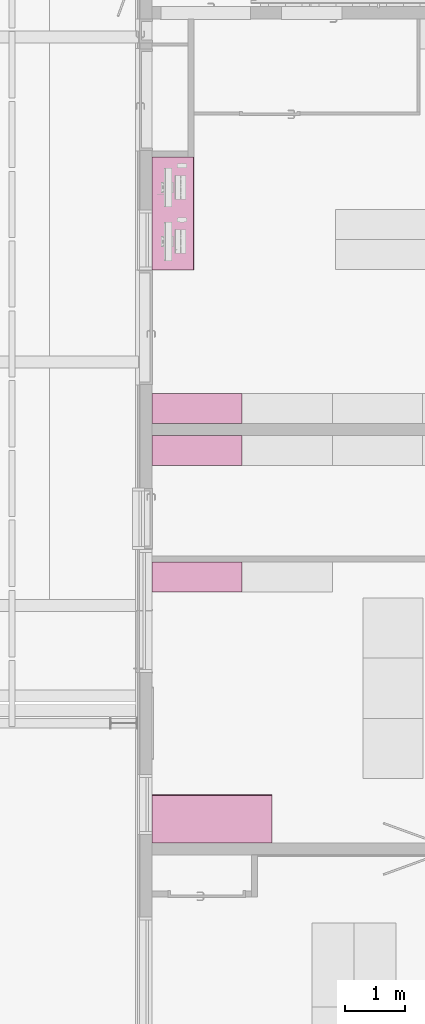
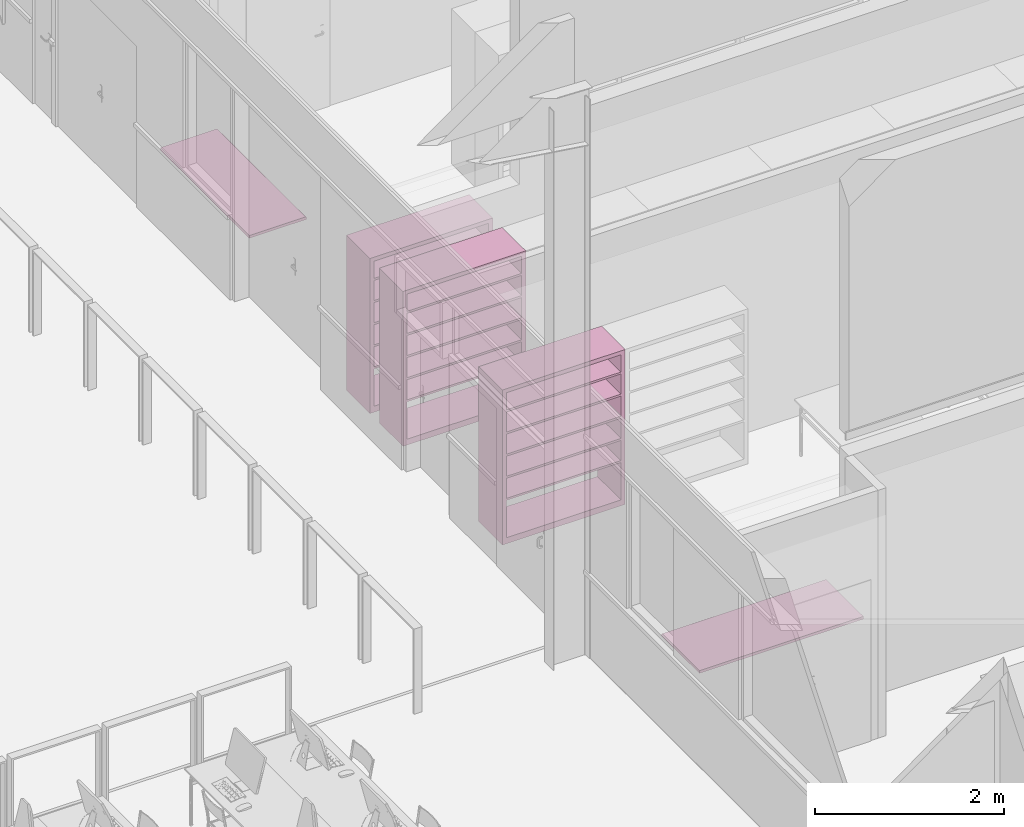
# One storey, part 124 of 137: 5 furnishings.
"""IFC2X3 building model written with IfcOpenShell, lengths in centimetres."""

from ifc_helpers import new_model, entity, si_unit, converted_unit, derived_unit, direction, frame, frame_2d, origin, place, context, subcontext, project, spatial, polyline, circle_curve, parameter, trimmed, segment, composite_curve, outline, extrude, source, transform, mapped, material, type_object, type_shapes, element, save


model = new_model("IFC2X3")

# Units and contexts
model_context = context("Model", 3, precision=0.001, world=origin(), true_north=direction((6.12303176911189e-17, 1.0)))
body_context = subcontext(model_context, "Body", "Model", "MODEL_VIEW")
ifc_project = project(units=[si_unit("LENGTHUNIT", "METRE", prefix="CENTI"), si_unit("AREAUNIT", "SQUARE_METRE"), si_unit("VOLUMEUNIT", "CUBIC_METRE"), converted_unit("PLANEANGLEUNIT", "DEGREE", entity("IfcRatioMeasure", 0.0174532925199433), si_unit("PLANEANGLEUNIT", "RADIAN"), dimensions=[0, 0, 0, 0, 0, 0, 0]), si_unit("MASSUNIT", "GRAM", prefix="KILO"), si_unit("TIMEUNIT", "SECOND"), si_unit("FREQUENCYUNIT", "HERTZ"), si_unit("THERMODYNAMICTEMPERATUREUNIT", "DEGREE_CELSIUS"), derived_unit("THERMALTRANSMITTANCEUNIT", [(si_unit("MASSUNIT", "GRAM", prefix="KILO"), 1), (si_unit("THERMODYNAMICTEMPERATUREUNIT", "KELVIN"), -1), (si_unit("TIMEUNIT", "SECOND"), -3)]), derived_unit("VOLUMETRICFLOWRATEUNIT", [(si_unit("LENGTHUNIT", "METRE"), 3), (si_unit("TIMEUNIT", "SECOND"), -1)]), si_unit("ELECTRICCURRENTUNIT", "AMPERE"), si_unit("ELECTRICVOLTAGEUNIT", "VOLT"), si_unit("POWERUNIT", "WATT"), si_unit("FORCEUNIT", "NEWTON", prefix="KILO"), si_unit("ILLUMINANCEUNIT", "LUX"), si_unit("LUMINOUSFLUXUNIT", "LUMEN"), si_unit("LUMINOUSINTENSITYUNIT", "CANDELA"), derived_unit("USERDEFINED", [(si_unit("MASSUNIT", "GRAM", prefix="KILO"), -1), (si_unit("LENGTHUNIT", "METRE"), -2), (si_unit("TIMEUNIT", "SECOND"), 3), (si_unit("LUMINOUSFLUXUNIT", "LUMEN"), 1)]), derived_unit("LINEARVELOCITYUNIT", [(si_unit("LENGTHUNIT", "METRE"), 1), (si_unit("TIMEUNIT", "SECOND"), -1)]), si_unit("PRESSUREUNIT", "PASCAL"), derived_unit("USERDEFINED", [(si_unit("LENGTHUNIT", "METRE"), -2), (si_unit("MASSUNIT", "GRAM", prefix="KILO"), 1), (si_unit("TIMEUNIT", "SECOND"), -2)])], contexts=[model_context])

# Site, building, storey, space
site_placement = place(None, frame((8.62739174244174, -249.285249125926, 0.0)))
site = spatial("IfcSite", under=ifc_project, at=site_placement, Name="Default", CompositionType="ELEMENT")
building_placement = place(site_placement, origin())
building = spatial("IfcBuilding", under=site, at=building_placement, CompositionType="ELEMENT")
storey_placement = place(building_placement, origin())
storey = spatial("IfcBuildingStorey", under=building, at=storey_placement, Name="RDC", CompositionType="ELEMENT", Elevation=-8.82465566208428e-11)
space_1_placement = place(storey_placement, origin())
space_1 = spatial("IfcSpace", under=storey, at=space_1_placement, Name="049", CompositionType="ELEMENT", InteriorOrExteriorSpace="INTERNAL")

# Furnishing
ifc_material_1 = material(Name="Bois - Mélaminé jaune pastel")
furniture_type_1 = type_object("IfcFurnitureType", Name="Sans réservation pour évier", AssemblyPlace="NOTDEFINED", material=ifc_material_1)
shared_shape_1 = source(origin(), body_context, "Body", "SweptSolid", [
    extrude(outline(composite_curve([segment(polyline([(-1.91284418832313, -23.4125426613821), (-0.772934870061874, -23.4125426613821)]), True, "CONTINUOUS"), segment(polyline([(-0.772934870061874, -23.4125426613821), (-0.16284418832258, -23.4125426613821)]), True, "CONTINUOUS"), segment(trimmed(circle_curve(frame_2d((-0.16284418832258, -21.6625426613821), x_axis=(0.0, -1.0)), 1.75), [parameter(4.57999874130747e-13)], [parameter(90.0000000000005)], True, "PARAMETER"), True, "CONTINUOUS"), segment(polyline([(1.58715581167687, -21.6625426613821), (1.58715581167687, -21.274744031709)]), True, "CONTINUOUS"), segment(polyline([(1.58715581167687, -21.274744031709), (1.58715581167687, 56.5874573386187)]), True, "CONTINUOUS"), segment(polyline([(1.58715581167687, 56.5874573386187), (-1.91284418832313, 56.5874573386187)]), True, "CONTINUOUS"), segment(polyline([(-1.91284418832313, 56.5874573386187), (-1.91284418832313, -23.4125426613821)]), True, "CONTINUOUS")], self_intersect=False)), frame((-87.6006308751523, 66.5874573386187, 89.1128441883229), z_axis=(1.0, 0.0, 0.0), x_axis=(0.0, 0.0, 1.0)), (0.0, 0.0, 1.0), 200.201261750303),
])
type_shapes(furniture_type_1, [shared_shape_1])
furnishing_1_placement = place(space_1_placement, frame((3141.50545866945, 3303.18519336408, 0.0)))
element("IfcFurnishingElement", 1, at=furnishing_1_placement, inside=space_1, type_object=furniture_type_1, material=ifc_material_1, Name="PTD:Sans réservation pour évier", ObjectType="Sans réservation pour évier", context=body_context, shape_type="MappedRepresentation", body=[
    mapped(shared_shape_1, transform((0.0, 0.0, 0.0), scale=1.0)),
])

# Space
space_2_placement = place(storey_placement, origin())
space_2 = spatial("IfcSpace", under=storey, at=space_2_placement, Name="050", CompositionType="ELEMENT", InteriorOrExteriorSpace="INTERNAL")

# Furnishing
ifc_material_2 = material(Name="Alu")
furniture_type_2 = type_object("IfcFurnitureType", Name="150 x 50 x 200", AssemblyPlace="NOTDEFINED", material=ifc_material_2)
shared_shape_2 = source(origin(), body_context, "Body", "SweptSolid", [
    extrude(outline(polyline([(-75.0, -100.0), (75.0, -100.0), (75.0, 100.0), (-75.0, 100.0), (-75.0, -100.0)]), holes=[polyline([(-69.9200000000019, 94.9199999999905), (69.9200000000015, 94.9199999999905), (69.9200000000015, 72.698571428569), (-69.9200000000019, 72.698571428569), (-69.9200000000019, 94.9199999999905)]), polyline([(-69.9200000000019, -92.3800000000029), (-69.9200000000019, -44.1271428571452), (69.9200000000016, -44.1271428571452), (69.9200000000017, -92.3800000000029), (-69.9200000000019, -92.3800000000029)]), polyline([(69.9200000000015, 15.5557142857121), (-69.9200000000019, 15.5557142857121), (-69.9200000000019, 41.5871428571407), (69.9200000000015, 41.5871428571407), (69.9200000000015, 15.5557142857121)]), polyline([(-69.9200000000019, 70.1585714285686), (69.9200000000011, 70.1585714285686), (69.9200000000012, 44.1271428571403), (-69.9200000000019, 44.1271428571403), (-69.9200000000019, 70.1585714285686)]), polyline([(-69.9200000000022, 13.0157142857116), (69.9200000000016, 13.0157142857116), (69.9200000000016, -13.0157142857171), (-69.9200000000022, -13.0157142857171), (-69.9200000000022, 13.0157142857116)]), polyline([(-69.9200000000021, -15.5557142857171), (69.9200000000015, -15.5557142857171), (69.9200000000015, -41.5871428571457), (-69.9200000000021, -41.5871428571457), (-69.9200000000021, -15.5557142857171)])]), frame((0.0, -55.48, 100.0), z_axis=(0.0, 1.0, 0.0), x_axis=(-1.0, 0.0, 0.0)), (0.0, 0.0, 1.0), 50.0),
])
type_shapes(furniture_type_2, [shared_shape_2])
furnishing_2_placement = place(space_2_placement, frame((3128.9048277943, 4065.66519336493, 0.0)))
element("IfcFurnishingElement", 2, at=furnishing_2_placement, inside=space_2, type_object=furniture_type_2, material=ifc_material_2, Name="Etagère:150 x 50 x 200", ObjectType="150 x 50 x 200", context=body_context, shape_type="MappedRepresentation", body=[
    mapped(shared_shape_2, transform((0.0, 0.0, 0.0), scale=1.0)),
])

# Space
space_3_placement = place(storey_placement, origin())
space_3 = spatial("IfcSpace", under=storey, at=space_3_placement, Name="051", CompositionType="ELEMENT", InteriorOrExteriorSpace="INTERNAL")

# Furnishings
furniture_type_3 = type_object("IfcFurnitureType", Name="150 x 50 x 200", AssemblyPlace="NOTDEFINED", material=ifc_material_2)
shared_shape_3 = source(origin(), body_context, "Body", "SweptSolid", [
    extrude(outline(polyline([(-75.0, -100.0), (75.0, -100.0), (75.0, 100.0), (-75.0, 100.0), (-75.0, -100.0)]), holes=[polyline([(-69.9200000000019, 94.9199999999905), (69.9200000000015, 94.9199999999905), (69.9200000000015, 72.698571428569), (-69.9200000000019, 72.698571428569), (-69.9200000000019, 94.9199999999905)]), polyline([(-69.9200000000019, -92.3800000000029), (-69.9200000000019, -44.1271428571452), (69.9200000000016, -44.1271428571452), (69.9200000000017, -92.3800000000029), (-69.9200000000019, -92.3800000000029)]), polyline([(69.9200000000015, 15.5557142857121), (-69.9200000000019, 15.5557142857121), (-69.9200000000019, 41.5871428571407), (69.9200000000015, 41.5871428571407), (69.9200000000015, 15.5557142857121)]), polyline([(-69.9200000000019, 70.1585714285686), (69.9200000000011, 70.1585714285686), (69.9200000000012, 44.1271428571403), (-69.9200000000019, 44.1271428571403), (-69.9200000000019, 70.1585714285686)]), polyline([(-69.9200000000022, 13.0157142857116), (69.9200000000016, 13.0157142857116), (69.9200000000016, -13.0157142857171), (-69.9200000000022, -13.0157142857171), (-69.9200000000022, 13.0157142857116)]), polyline([(-69.9200000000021, -15.5557142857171), (69.9200000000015, -15.5557142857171), (69.9200000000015, -41.5871428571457), (-69.9200000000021, -41.5871428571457), (-69.9200000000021, -15.5557142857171)])]), frame((0.0, 5.48000000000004, 100.0), z_axis=(0.0, 1.0, 0.0), x_axis=(-1.0, 0.0, 0.0)), (0.0, 0.0, 1.0), 50.0),
])
type_shapes(furniture_type_3, [shared_shape_3])
furnishing_3_placement = place(space_3_placement, frame((3128.9048277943, 3934.70519336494, 0.0)))
element("IfcFurnishingElement", 3, at=furnishing_3_placement, inside=space_3, type_object=furniture_type_3, material=ifc_material_2, Name="Etagère:150 x 50 x 200", ObjectType="150 x 50 x 200", context=body_context, shape_type="MappedRepresentation", body=[
    mapped(shared_shape_3, transform((0.0, 0.0, 0.0), scale=1.0)),
])
furnishing_4_placement = place(space_1_placement, frame((3128.9048277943, 3724.7051933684, 0.0)))
element("IfcFurnishingElement", 4, at=furnishing_4_placement, inside=space_1, type_object=furniture_type_3, material=ifc_material_2, Name="Etagère:150 x 50 x 200", ObjectType="150 x 50 x 200", context=body_context, shape_type="MappedRepresentation", body=[
    mapped(shared_shape_3, transform((0.0, 0.0, 0.0), scale=1.0)),
])
furniture_type_4 = type_object("IfcFurnitureType", Name="Sans réservation pour évier", AssemblyPlace="NOTDEFINED", material=ifc_material_1)
shared_shape_4 = source(origin(), body_context, "Body", "SweptSolid", [
    extrude(outline(composite_curve([segment(polyline([(-1.91284418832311, -20.5553998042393), (-0.772934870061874, -20.5553998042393)]), True, "CONTINUOUS"), segment(polyline([(-0.772934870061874, -20.5553998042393), (-0.16284418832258, -20.5553998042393)]), True, "CONTINUOUS"), segment(trimmed(circle_curve(frame_2d((-0.16284418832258, -18.8053998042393), x_axis=(0.0, -1.0)), 1.75), [parameter(4.57999874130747e-13)], [parameter(90.0000000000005)], True, "PARAMETER"), True, "CONTINUOUS"), segment(polyline([(1.58715581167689, -18.8053998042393), (1.58715581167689, -18.4176011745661)]), True, "CONTINUOUS"), segment(polyline([(1.58715581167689, -18.4176011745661), (1.58715581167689, 49.4446001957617)]), True, "CONTINUOUS"), segment(polyline([(1.58715581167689, 49.4446001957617), (-1.91284418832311, 49.4446001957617)]), True, "CONTINUOUS"), segment(polyline([(-1.91284418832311, 49.4446001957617), (-1.91284418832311, -20.5553998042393)]), True, "CONTINUOUS")], self_intersect=False)), frame((-81.3019905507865, 59.4446001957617, 89.1128441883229), z_axis=(1.0, 0.0, 0.0), x_axis=(0.0, 0.0, 1.0)), (0.0, 0.0, 1.0), 187.603981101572),
])
type_shapes(furniture_type_4, [shared_shape_4])
furnishing_5_placement = place(storey_placement, frame((3043.9048277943, 4371.67821758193, -15.6999999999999), z_axis=(0.0, 0.0, 1.0), x_axis=(0.0, -1.0, 0.0)))
element("IfcFurnishingElement", 5, at=furnishing_5_placement, inside=storey, type_object=furniture_type_4, material=ifc_material_1, Name="PTD:Sans réservation pour évier", ObjectType="Sans réservation pour évier", context=body_context, shape_type="MappedRepresentation", body=[
    mapped(shared_shape_4, transform((0.0, 0.0, 0.0), scale=1.0)),
])

save(model, "model.ifc")
